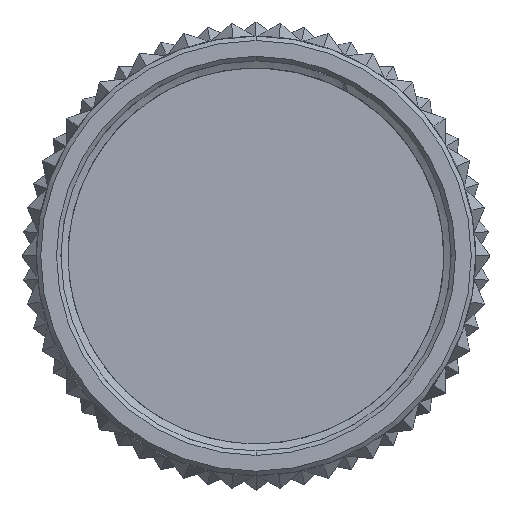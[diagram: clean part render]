
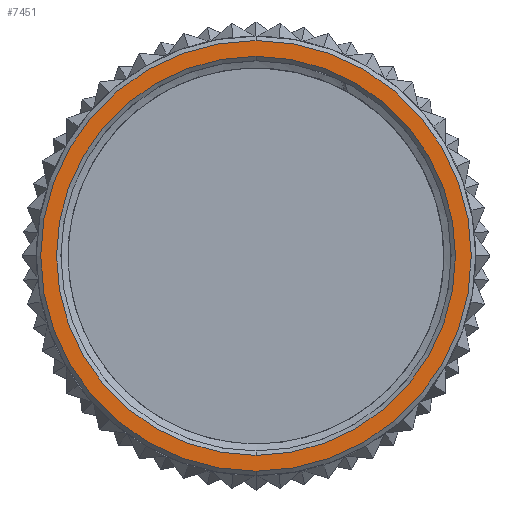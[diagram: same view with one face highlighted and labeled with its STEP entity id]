
A CAD part, top view. The second image highlights one B-rep face of the part: STEP entity #7451.
In plain terms, the highlighted planar face has unit normal (0, 0, 1).
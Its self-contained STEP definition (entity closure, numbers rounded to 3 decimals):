
#246 = DIRECTION ( 'NONE',  ( 0., 1., 0. ) ) ;
#429 = CIRCLE ( 'NONE', #6903, 24.5 ) ;
#597 = VERTEX_POINT ( 'NONE', #4594 ) ;
#740 = ORIENTED_EDGE ( 'NONE', *, *, #12319, .T. ) ;
#756 = DIRECTION ( 'NONE',  ( 0., 1., 0. ) ) ;
#1014 = EDGE_CURVE ( 'NONE', #10234, #8411, #9527, .T. ) ;
#1047 = CARTESIAN_POINT ( 'NONE',  ( 0., 2.5, 7.5 ) ) ;
#1105 = CARTESIAN_POINT ( 'NONE',  ( 0., 2.5, 7.5 ) ) ;
#1178 = FACE_BOUND ( 'NONE', #6202, .T. ) ;
#1196 = VERTEX_POINT ( 'NONE', #1632 ) ;
#1524 = CARTESIAN_POINT ( 'NONE',  ( 0., 2.5, 7.5 ) ) ;
#1632 = CARTESIAN_POINT ( 'NONE',  ( 0., -22., 7.5 ) ) ;
#1805 = DIRECTION ( 'NONE',  ( 0., 1., 0. ) ) ;
#1985 = EDGE_CURVE ( 'NONE', #597, #1196, #2860, .T. ) ;
#2075 = DIRECTION ( 'NONE',  ( 0., 0., 1. ) ) ;
#2275 = FACE_OUTER_BOUND ( 'NONE', #11590, .T. ) ;
#2370 = DIRECTION ( 'NONE',  ( 0., 1., 0. ) ) ;
#2679 = CARTESIAN_POINT ( 'NONE',  ( 0., 2.5, 7.5 ) ) ;
#2860 = CIRCLE ( 'NONE', #10955, 24.5 ) ;
#2886 = EDGE_CURVE ( 'NONE', #8411, #10234, #10341, .T. ) ;
#3708 = DIRECTION ( 'NONE',  ( 0., 0., 1. ) ) ;
#4218 = CARTESIAN_POINT ( 'NONE',  ( 0., -20.2, 7.5 ) ) ;
#4594 = CARTESIAN_POINT ( 'NONE',  ( 0., 27., 7.5 ) ) ;
#4918 = AXIS2_PLACEMENT_3D ( 'NONE', #8025, #8097, #2370 ) ;
#5466 = DIRECTION ( 'NONE',  ( 0., 0., -1. ) ) ;
#5720 = CARTESIAN_POINT ( 'NONE',  ( 0., 25.2, 7.5 ) ) ;
#6202 = EDGE_LOOP ( 'NONE', ( #12805, #11414 ) ) ;
#6903 = AXIS2_PLACEMENT_3D ( 'NONE', #1047, #2075, #756 ) ;
#7451 = ADVANCED_FACE ( 'NONE', ( #2275, #1178 ), #14223, .F. ) ;
#8025 = CARTESIAN_POINT ( 'NONE',  ( 0., 2.5, 7.5 ) ) ;
#8097 = DIRECTION ( 'NONE',  ( 0., 0., -1. ) ) ;
#8259 = AXIS2_PLACEMENT_3D ( 'NONE', #1524, #12264, #246 ) ;
#8411 = VERTEX_POINT ( 'NONE', #5720 ) ;
#9527 = CIRCLE ( 'NONE', #4918, 22.7 ) ;
#10030 = DIRECTION ( 'NONE',  ( 0., 1., 0. ) ) ;
#10234 = VERTEX_POINT ( 'NONE', #4218 ) ;
#10341 = CIRCLE ( 'NONE', #8259, 22.7 ) ;
#10399 = AXIS2_PLACEMENT_3D ( 'NONE', #1105, #5466, #10030 ) ;
#10955 = AXIS2_PLACEMENT_3D ( 'NONE', #2679, #3708, #1805 ) ;
#11414 = ORIENTED_EDGE ( 'NONE', *, *, #2886, .T. ) ;
#11590 = EDGE_LOOP ( 'NONE', ( #13541, #740 ) ) ;
#12264 = DIRECTION ( 'NONE',  ( 0., 0., -1. ) ) ;
#12319 = EDGE_CURVE ( 'NONE', #1196, #597, #429, .T. ) ;
#12805 = ORIENTED_EDGE ( 'NONE', *, *, #1014, .T. ) ;
#13541 = ORIENTED_EDGE ( 'NONE', *, *, #1985, .T. ) ;
#14223 = PLANE ( 'NONE',  #10399 ) ;
